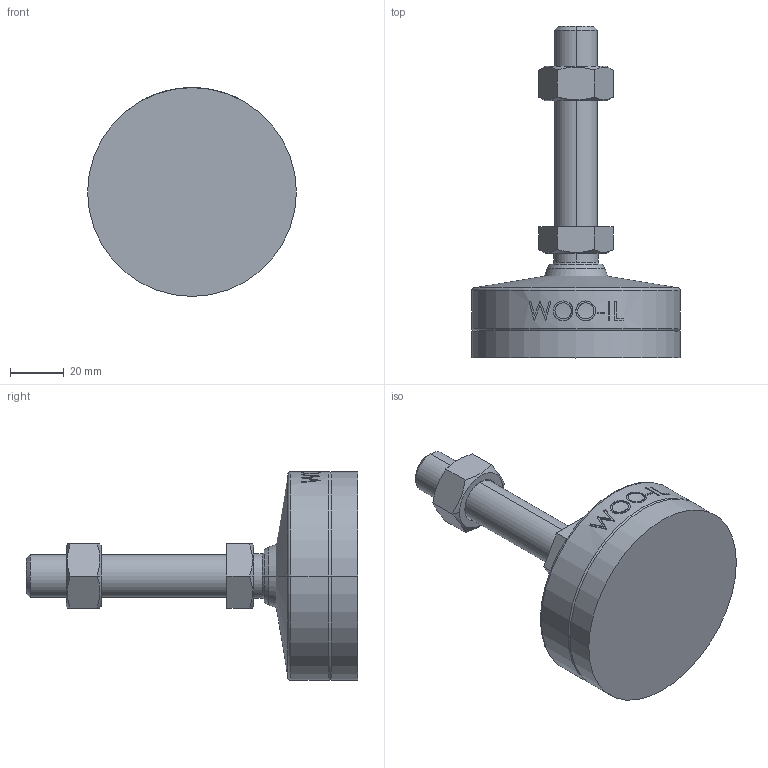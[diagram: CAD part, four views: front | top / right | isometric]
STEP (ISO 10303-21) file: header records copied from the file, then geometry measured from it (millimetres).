
FILE_DESCRIPTION (( 'STEP AP214' ), '1' );
FILE_NAME ('MFNR78-M16-75.step', '2021-02-22T09:08:22', ( '' ), ( '' ), 'SwSTEP 2.0', 'SolidWorks 2019', '' );
FILE_SCHEMA (( 'AUTOMOTIVE_DESIGN' ));
Length unit declared in the file: millimetre
Products named in the file (2): MFNR78-M16-75
Bounding box: 78 x 124 x 78 mm (x, y, z)
Volume: 160454.7 mm3; surface area: 24012.8 mm2
Topology: 2 solids, 2 shells, 105 faces, 245 edges, 156 vertices
Faces by surface type: plane 47, cone 18, cylinder 18, bspline 16, torus 4, sphere 2
Entity records: 4517 total; most frequent: CARTESIAN_POINT 2180, ORIENTED_EDGE 490, DIRECTION 437, EDGE_CURVE 245, AXIS2_PLACEMENT_3D 167, VERTEX_POINT 156, EDGE_LOOP 119, ADVANCED_FACE 105
